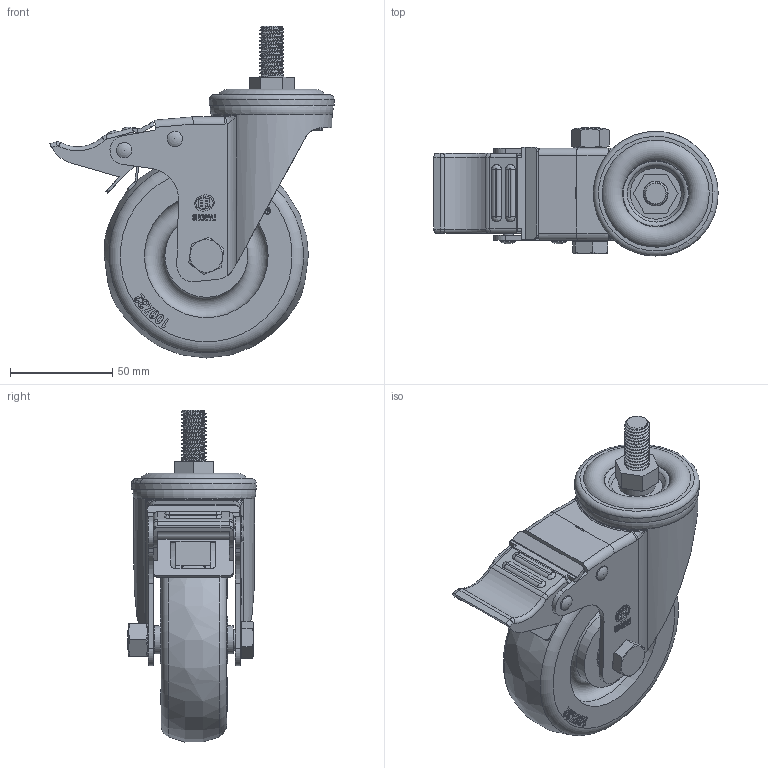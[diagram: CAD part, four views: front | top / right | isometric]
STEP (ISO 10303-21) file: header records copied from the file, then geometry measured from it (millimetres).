
FILE_DESCRIPTION(/* description */ (''),/* implementation_level */ '2;1');
FILE_NAME(/* name */ '20D16_4_F.stp',/* time_stamp */ '2022-10-17T12:48:17+08:00',/* author */ (''),/* organization */ (''),/* preprocessor_version */ 'ST-DEVELOPER v14',/* originating_system */ 'SIEMENS PLM Software NX 8.0',/* authorisation */ '');
FILE_SCHEMA (('AUTOMOTIVE_DESIGN { 1 0 10303 214 3 1 1 1 }'));
Length unit declared in the file: millimetre
Products named in the file (1): 20D16_4_F
Bounding box: 138.97 x 62.75 x 162.34 mm (x, y, z)
Volume: 280706.5 mm3; surface area: 88599.6 mm2
Topology: 1 solids, 1 shells, 1082 faces, 3136 edges, 2085 vertices
Faces by surface type: plane 576, cylinder 274, torus 74, sphere 62, bspline 36, cone 36, extrusion 24
Full cylindrical faces by diameter (mm): 2.841 x1, 3.44 x1, 4 x2, 5 x2, 5.2 x7, 7.5 x2, 10 x2, 12 x1, 12.2 x1, 12.496 x1, 13.6 x2, 16 x1, 18 x1, 23 x2, 30.122 x1, 40.5 x2, 45.996 x1, 54 x1, 56 x1, 57.6 x1, 59 x1, 60.5 x2, 61 x1
Entity records: 44212 total; most frequent: CARTESIAN_POINT 17937, ORIENTED_EDGE 5676, DIRECTION 4970, EDGE_CURVE 2838, VERTEX_POINT 1929, AXIS2_PLACEMENT_3D 1776, VECTOR 1418, LINE 1394
